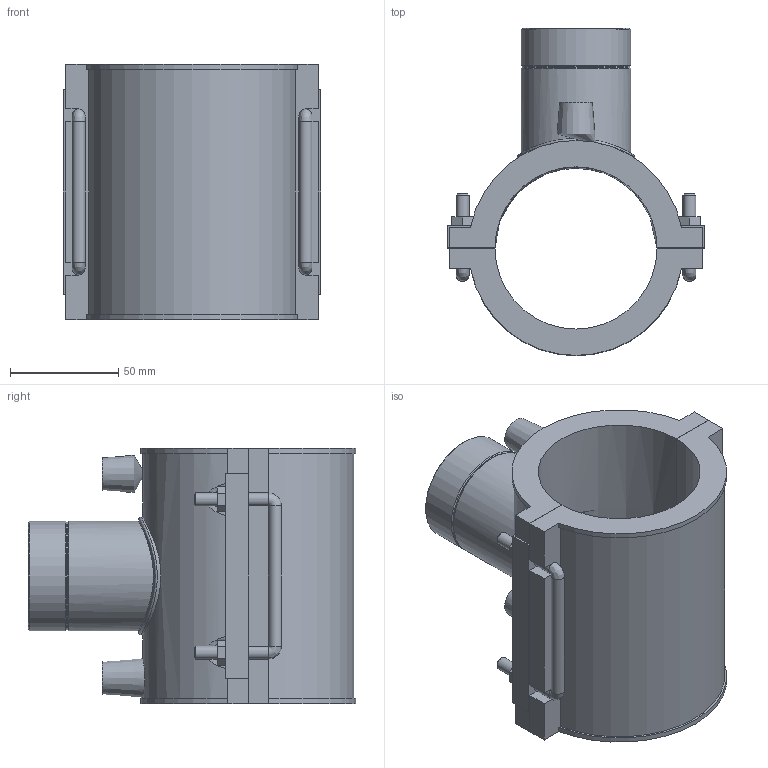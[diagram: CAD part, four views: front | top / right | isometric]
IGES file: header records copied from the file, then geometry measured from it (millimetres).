
Global section: file name: 493804075013.ipt; native system: Autodesk Inventor 2015; preprocessor: unknown; author: KIM; date: 20171106.094100; units: millimetre
Bounding box: 119 x 151.47 x 118 mm (x, y, z)
Volume: 467650.5 mm3; surface area: 109384.5 mm2
Topology: 2 solids, 2 shells, 138 faces, 348 edges, 218 vertices
Faces by surface type: plane 86, cylinder 24, revolution 10, cone 9, bspline 9
Full cylindrical faces by diameter (mm): 4 x2, 6 x10, 49.638 x1, 50.638 x2, 54.533 x1
